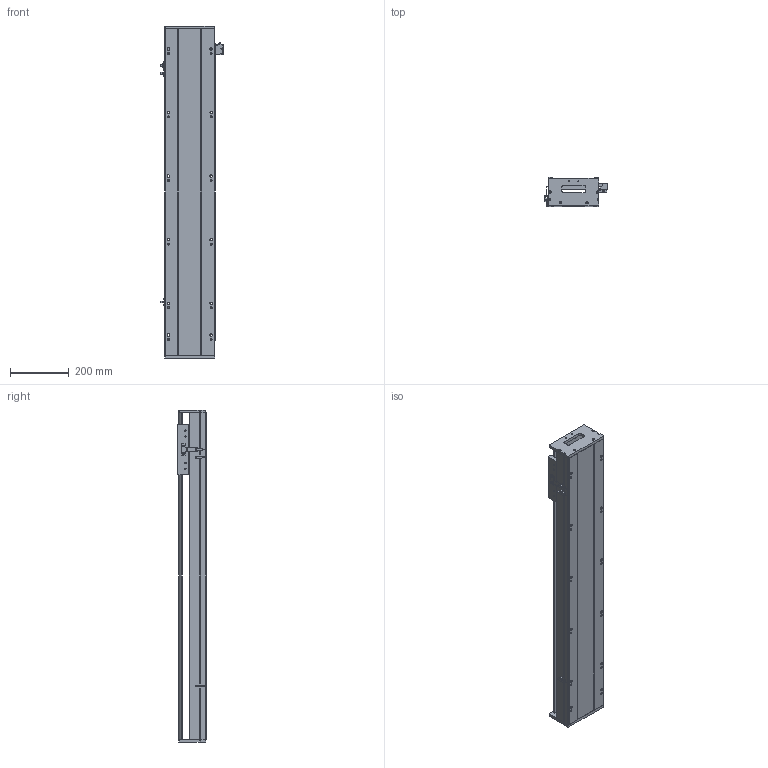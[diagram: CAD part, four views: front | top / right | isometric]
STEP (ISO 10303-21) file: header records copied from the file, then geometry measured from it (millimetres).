
FILE_DESCRIPTION (( 'STEP AP203' ), '1' );
FILE_NAME ('SKR17S-C1-S858（简）.STEP', '2022-09-29T03:14:17', ( '' ), ( '' ), 'SwSTEP 2.0', 'SolidWorks 2018', '' );
FILE_SCHEMA (( 'CONFIG_CONTROL_DESIGN' ));
Length unit declared in the file: millimetre
Products named in the file (8): SIKO棠掑; SKR17滑台-170L（简）; SKR17菁釱-C1-S858(潠); 感应片（SKR12S-14S-17S）; 棠掑假蚾輸; EE-SX672; SKR17耜啣; SKR17S-C1-S858（简）
Assembly tree (10 placements, depth 2):
  SKR17S-C1-S858（简）
    SKR17菁釱-C1-S858(潠)
    SKR17滑台-170L（简）
    SIKO棠掑
    EE-SX672  x3
    SKR17耜啣  x2
    棠掑假蚾輸
    感应片（SKR12S-14S-17S）
Bounding box: 212.7 x 97 x 1128 mm (x, y, z)
Volume: 8979644.1 mm3; surface area: 1144182.6 mm2
Topology: 11 solids, 11 shells, 1089 faces, 3006 edges, 1935 vertices
Faces by surface type: cylinder 506, plane 467, cone 116
Entity records: 32646 total; most frequent: CARTESIAN_POINT 8345, ORIENTED_EDGE 5040, DIRECTION 4744, EDGE_CURVE 2520, AXIS2_PLACEMENT_3D 1686, VERTEX_POINT 1639, VECTOR 1372, LINE 1372
